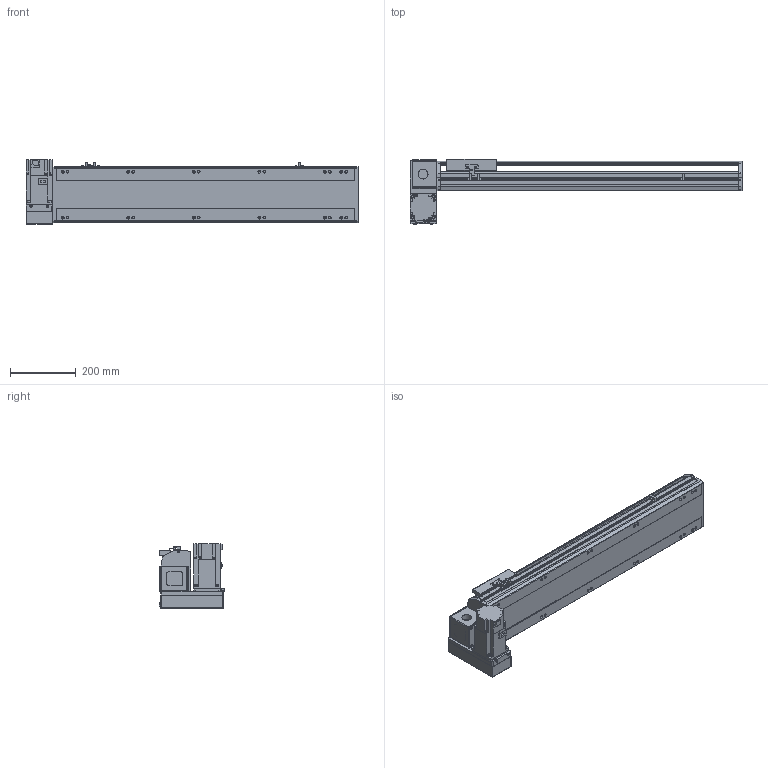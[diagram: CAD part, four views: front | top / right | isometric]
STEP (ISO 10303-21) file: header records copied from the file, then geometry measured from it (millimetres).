
FILE_DESCRIPTION(/* description */ ('STEP AP214'),/* implementation_level */ '2;1');
FILE_NAME(/* name */ 'PBS170-P40-S650-LD-T75-C1-N(0)',/* time_stamp */ '2022-06-07T09:50:51+02:00',/* author */ ('License CC BY-ND 4.0'),/* organization */ ('CADENAS'),/* preprocessor_version */ 'ST-DEVELOPER v18.102',/* originating_system */ 'PARTsolutions',/* authorisation */ ' ');
FILE_SCHEMA (('AUTOMOTIVE_DESIGN {1 0 10303 214 3 1 1}'));
Length unit declared in the file: millimetre
Products named in the file (7): PBS170-P40-S650-LD-T75-C1-N(0); PBS170_sensor; PBS170_plant; PBS170_sliser; T75-p1; PBS170T-LD_motors; PBS170-S650()_body
Assembly tree (8 placements, depth 2):
  PBS170-P40-S650-LD-T75-C1-N(0)
    PBS170_sensor  x3
    PBS170_plant
    PBS170_sliser
    T75-p1
    PBS170T-LD_motors
    PBS170-S650()_body
Bounding box: 1013 x 201 x 197.3 mm (x, y, z)
Volume: 8493827.1 mm3; surface area: 1140360.8 mm2
Topology: 8 solids, 8 shells, 1050 faces, 2795 edges, 1822 vertices
Faces by surface type: plane 675, cylinder 323, cone 42, sphere 8, torus 2
Full cylindrical faces by diameter (mm): 3.242 x4, 4 x2, 4.4 x4, 4.5 x6, 4.917 x4, 6 x9, 6.647 x20, 7 x2, 7.5 x4, 8 x8, 8.5 x12, 10 x4, 10.5 x12, 11 x2, 30 x2, 40 x1, 70 x1
Entity records: 30202 total; most frequent: CARTESIAN_POINT 5489, DIRECTION 5160, ORIENTED_EDGE 4908, EDGE_CURVE 2454, AXIS2_PLACEMENT_3D 1777, VERTEX_POINT 1682, LINE 1606, VECTOR 1606
